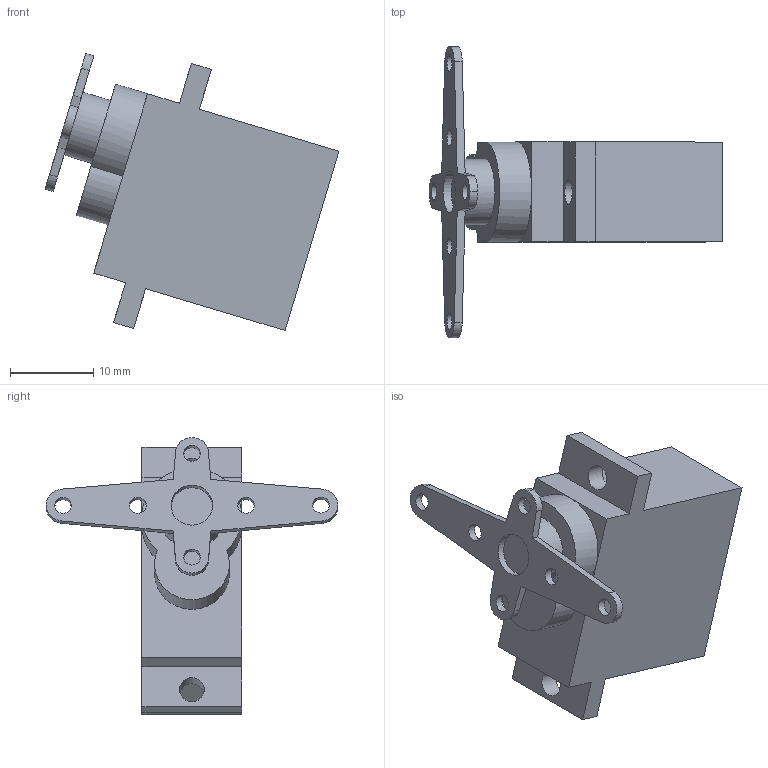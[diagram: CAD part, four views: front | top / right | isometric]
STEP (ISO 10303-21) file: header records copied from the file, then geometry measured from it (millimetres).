
FILE_DESCRIPTION(/* description */ (''),/* implementation_level */ '2;1');
FILE_NAME(/* name */ 'Servo.step',/* time_stamp */ '2023-12-18T15:15:53+01:00',/* author */ (''),/* organization */ (''),/* preprocessor_version */ 'ST-DEVELOPER v20',/* originating_system */ 'Autodesk Translation Framework v12.14.0.127',/* authorisation */ '');
FILE_SCHEMA (('AUTOMOTIVE_DESIGN { 1 0 10303 214 3 1 1 }'));
Length unit declared in the file: millimetre
Products named in the file (1): 4_Servo
Bounding box: 35.3 x 34.96 x 33.28 mm (x, y, z)
Volume: 7698.6 mm3; surface area: 3227.1 mm2
Topology: 1 solids, 1 shells, 48 faces, 125 edges, 81 vertices
Faces by surface type: plane 30, cylinder 18
Full cylindrical faces by diameter (mm): 2 x6, 3 x2, 5 x1, 7.893 x1
Entity records: 1536 total; most frequent: DIRECTION 265, CARTESIAN_POINT 255, ORIENTED_EDGE 250, EDGE_CURVE 125, AXIS2_PLACEMENT_3D 91, LINE 83, VECTOR 83, VERTEX_POINT 81
